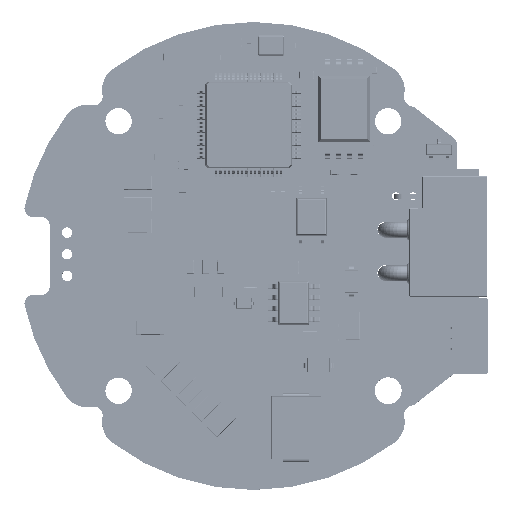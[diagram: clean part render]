
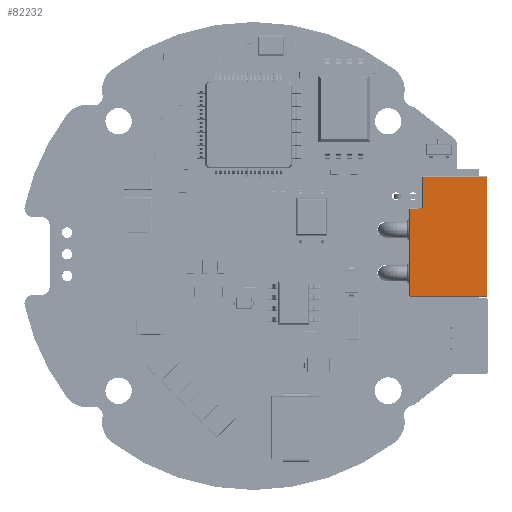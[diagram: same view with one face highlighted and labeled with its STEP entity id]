
A CAD part, top view. The second image highlights one B-rep face of the part: STEP entity #82232.
In plain terms, the highlighted planar face has unit normal (0, 0, 1).
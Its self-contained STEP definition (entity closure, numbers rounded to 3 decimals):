
#79498 = VERTEX_POINT('',#79499);
#79499 = CARTESIAN_POINT('',(3.25,8.95,
    4.9));
#79586 = VERTEX_POINT('',#79587);
#79587 = CARTESIAN_POINT('',(-6.85,8.95,
    4.9));
#80124 = VERTEX_POINT('',#80125);
#80125 = CARTESIAN_POINT('',(-6.85,0.05,
    4.9));
#80738 = EDGE_CURVE('',#79586,#79498,#80739,.T.);
#80739 = LINE('',#80740,#80741);
#80740 = CARTESIAN_POINT('',(-6.675,8.95,
    4.9));
#80741 = VECTOR('',#80742,1.);
#80742 = DIRECTION('',(1.,0.,0.));
#80920 = VERTEX_POINT('',#80921);
#80921 = CARTESIAN_POINT('',(3.25,8.05,
    4.9));
#80937 = EDGE_CURVE('',#79498,#80920,#80938,.T.);
#80938 = LINE('',#80939,#80940);
#80939 = CARTESIAN_POINT('',(3.25,4.5,
    4.9));
#80940 = VECTOR('',#80941,1.);
#80941 = DIRECTION('',(0.,-1.,0.));
#81688 = VERTEX_POINT('',#81689);
#81689 = CARTESIAN_POINT('',(6.95,7.45,
    4.9));
#81705 = VERTEX_POINT('',#81706);
#81706 = CARTESIAN_POINT('',(3.35,7.45,
    4.9));
#81713 = EDGE_CURVE('',#81705,#81688,#81714,.T.);
#81714 = LINE('',#81715,#81716);
#81715 = CARTESIAN_POINT('',(-0.775,7.45,
    4.9));
#81716 = VECTOR('',#81717,1.);
#81717 = DIRECTION('',(1.,0.,0.));
#81926 = VERTEX_POINT('',#81927);
#81927 = CARTESIAN_POINT('',(3.3,7.537,
    4.9));
#81944 = EDGE_CURVE('',#81926,#81705,#81945,.T.);
#81945 = B_SPLINE_CURVE_WITH_KNOTS('',3,(#81946,#81947,#81948,#81949,
    #81950,#81951,#81952,#81953,#81954,#81955),.UNSPECIFIED.,.F.,.F.,(4,
    2,2,2,4),(0.,0.25,0.375,0.5,1.),.UNSPECIFIED.);
#81946 = CARTESIAN_POINT('',(3.3,7.537,
    4.9));
#81947 = CARTESIAN_POINT('',(3.3,7.528,4.9
    ));
#81948 = CARTESIAN_POINT('',(3.302,7.519,4.9
    ));
#81949 = CARTESIAN_POINT('',(3.306,7.507,
    4.9));
#81950 = CARTESIAN_POINT('',(3.308,7.503,
    4.9));
#81951 = CARTESIAN_POINT('',(3.312,7.496,4.9
    ));
#81952 = CARTESIAN_POINT('',(3.314,7.491,
    4.9));
#81953 = CARTESIAN_POINT('',(3.323,7.479,
    4.9));
#81954 = CARTESIAN_POINT('',(3.334,7.466,
    4.9));
#81955 = CARTESIAN_POINT('',(3.35,7.45,
    4.9));
#81965 = EDGE_CURVE('',#81926,#81966,#81968,.T.);
#81966 = VERTEX_POINT('',#81967);
#81967 = CARTESIAN_POINT('',(3.3,7.963,
    4.9));
#81968 = LINE('',#81969,#81970);
#81969 = CARTESIAN_POINT('',(3.3,4.,
    4.9));
#81970 = VECTOR('',#81971,1.);
#81971 = DIRECTION('',(0.,1.,0.));
#82213 = EDGE_CURVE('',#81688,#82214,#82216,.T.);
#82214 = VERTEX_POINT('',#82215);
#82215 = CARTESIAN_POINT('',(6.95,0.05,
    4.9));
#82216 = LINE('',#82217,#82218);
#82217 = CARTESIAN_POINT('',(6.95,0.,
    4.9));
#82218 = VECTOR('',#82219,1.);
#82219 = DIRECTION('',(0.,-1.,0.));
#82232 = ADVANCED_FACE('',(#82233),#82260,.T.);
#82233 = FACE_BOUND('',#82234,.T.);
#82234 = EDGE_LOOP('',(#82235,#82236,#82243,#82244,#82245,#82251,#82257,
    #82258,#82259));
#82235 = ORIENTED_EDGE('',*,*,#81965,.T.);
#82236 = ORIENTED_EDGE('',*,*,#82237,.F.);
#82237 = EDGE_CURVE('',#80920,#81966,#82238,.T.);
#82238 = CIRCLE('',#82239,0.1);
#82239 = AXIS2_PLACEMENT_3D('',#82240,#82241,#82242);
#82240 = CARTESIAN_POINT('',(3.35,8.05,
    4.9));
#82241 = DIRECTION('',(0.,0.,1.));
#82242 = DIRECTION('',(-0.707,-0.707,0.));
#82243 = ORIENTED_EDGE('',*,*,#80937,.F.);
#82244 = ORIENTED_EDGE('',*,*,#80738,.F.);
#82245 = ORIENTED_EDGE('',*,*,#82246,.F.);
#82246 = EDGE_CURVE('',#80124,#79586,#82247,.T.);
#82247 = LINE('',#82248,#82249);
#82248 = CARTESIAN_POINT('',(-6.85,0.,
    4.9));
#82249 = VECTOR('',#82250,1.);
#82250 = DIRECTION('',(0.,1.,0.));
#82251 = ORIENTED_EDGE('',*,*,#82252,.F.);
#82252 = EDGE_CURVE('',#82214,#80124,#82253,.T.);
#82253 = LINE('',#82254,#82255);
#82254 = CARTESIAN_POINT('',(-6.675,0.05,
    4.9));
#82255 = VECTOR('',#82256,1.);
#82256 = DIRECTION('',(-1.,0.,0.));
#82257 = ORIENTED_EDGE('',*,*,#82213,.F.);
#82258 = ORIENTED_EDGE('',*,*,#81713,.F.);
#82259 = ORIENTED_EDGE('',*,*,#81944,.F.);
#82260 = PLANE('',#82261);
#82261 = AXIS2_PLACEMENT_3D('',#82262,#82263,#82264);
#82262 = CARTESIAN_POINT('',(-6.7,0.,
    4.9));
#82263 = DIRECTION('',(0.,0.,1.));
#82264 = DIRECTION('',(1.,0.,0.));
